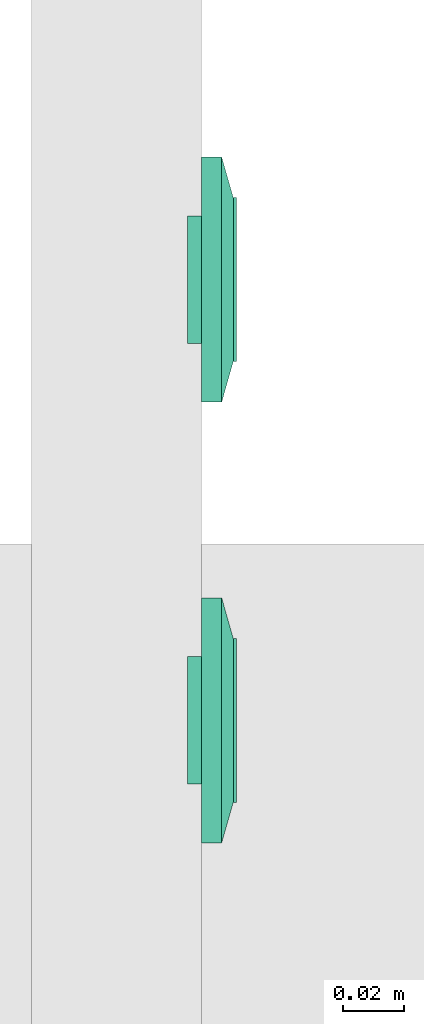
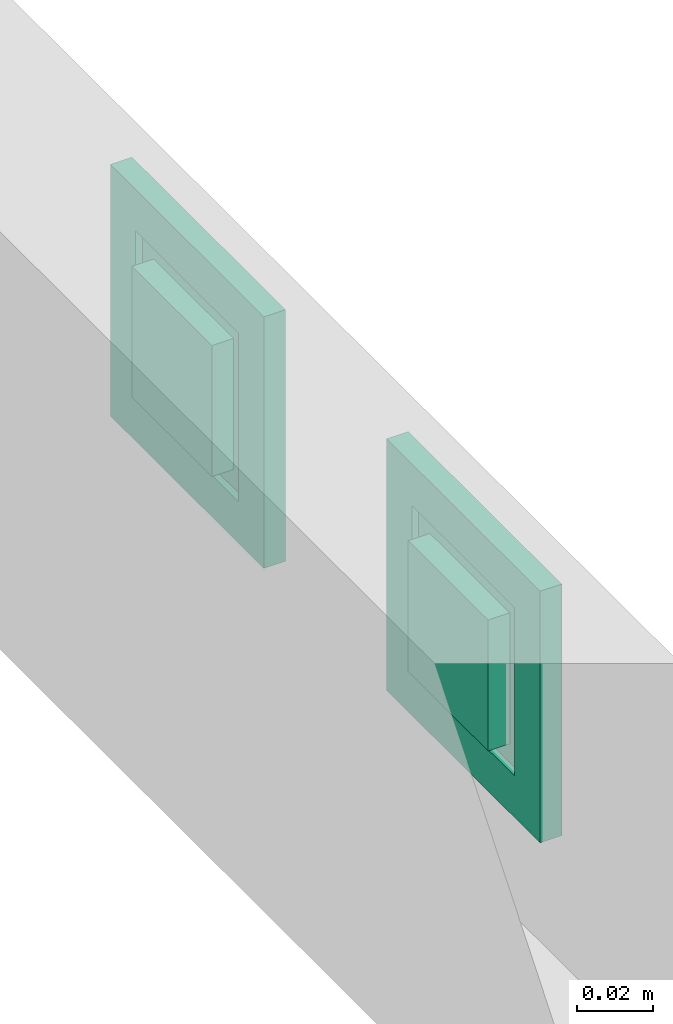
# One storey, part 49 of 166: 2 flow terminals.
"""IFC2X3 building model written with IfcOpenShell, lengths in metres."""

from ifc_helpers import new_model, entity, si_unit, converted_unit, derived_unit, direction, frame, origin, place, context, subcontext, project, spatial, faceted_brep, source, transform, mapped, type_object, type_shapes, element, save


model = new_model("IFC2X3")

# Units and contexts
model_context = context("Model", 3, precision=1e-05, world=origin(), true_north=direction((6.12303176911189e-17, 1.0)))
body_context = subcontext(model_context, "Body", "Model", "MODEL_VIEW")
ifc_project = project(units=[si_unit("LENGTHUNIT", "METRE"), si_unit("AREAUNIT", "SQUARE_METRE"), si_unit("VOLUMEUNIT", "CUBIC_METRE"), converted_unit("PLANEANGLEUNIT", "DEGREE", entity("IfcRatioMeasure", 0.0174532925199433), si_unit("PLANEANGLEUNIT", "RADIAN"), dimensions=[0, 0, 0, 0, 0, 0, 0]), si_unit("MASSUNIT", "GRAM", prefix="KILO"), derived_unit("MASSDENSITYUNIT", [(si_unit("MASSUNIT", "GRAM", prefix="KILO"), 1), (si_unit("LENGTHUNIT", "METRE"), -3)]), si_unit("TIMEUNIT", "SECOND"), si_unit("FREQUENCYUNIT", "HERTZ"), si_unit("THERMODYNAMICTEMPERATUREUNIT", "DEGREE_CELSIUS"), derived_unit("THERMALTRANSMITTANCEUNIT", [(si_unit("MASSUNIT", "GRAM", prefix="KILO"), 1), (si_unit("THERMODYNAMICTEMPERATUREUNIT", "KELVIN"), -1), (si_unit("TIMEUNIT", "SECOND"), -3)]), derived_unit("VOLUMETRICFLOWRATEUNIT", [(si_unit("LENGTHUNIT", "METRE"), 3), (si_unit("TIMEUNIT", "SECOND"), -1)]), si_unit("ELECTRICCURRENTUNIT", "AMPERE"), si_unit("ELECTRICVOLTAGEUNIT", "VOLT"), si_unit("POWERUNIT", "WATT"), si_unit("FORCEUNIT", "NEWTON"), si_unit("ILLUMINANCEUNIT", "LUX"), si_unit("LUMINOUSFLUXUNIT", "LUMEN"), si_unit("LUMINOUSINTENSITYUNIT", "CANDELA"), derived_unit("USERDEFINED", [(si_unit("MASSUNIT", "GRAM", prefix="KILO"), -1), (si_unit("LENGTHUNIT", "METRE"), -2), (si_unit("TIMEUNIT", "SECOND"), 3), (si_unit("LUMINOUSFLUXUNIT", "LUMEN"), 1)]), derived_unit("LINEARVELOCITYUNIT", [(si_unit("LENGTHUNIT", "METRE"), 1), (si_unit("TIMEUNIT", "SECOND"), -1)]), si_unit("PRESSUREUNIT", "PASCAL"), derived_unit("USERDEFINED", [(si_unit("LENGTHUNIT", "METRE"), -2), (si_unit("MASSUNIT", "GRAM", prefix="KILO"), 1), (si_unit("TIMEUNIT", "SECOND"), -2)])], contexts=[model_context])

# Site, building, storey
site_placement = place(None, origin())
site = spatial("IfcSite", under=ifc_project, at=site_placement, Name="Default", CompositionType="ELEMENT")
building_placement = place(site_placement, origin())
building = spatial("IfcBuilding", under=site, at=building_placement, CompositionType="ELEMENT")
storey_placement = place(building_placement, frame((0.0, 0.0, 4.27)))
storey = spatial("IfcBuildingStorey", under=building, at=storey_placement, Name="01", CompositionType="ELEMENT", Elevation=4.27)

# Flow terminals
electric_appliance_type = type_object("IfcElectricApplianceType", Name="RJ45 IP20", PredefinedType="NOTDEFINED")
shared_shape = source(origin(), body_context, "Body", "Brep", [
    faceted_brep([(0.00200000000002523, 0.0, 0.00799999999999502), (0.00400000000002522, 0.0, 0.00799999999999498), (0.00500000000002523, 0.00199999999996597, 0.00799999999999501), (0.0110000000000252, 0.00199999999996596, 0.00799999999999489), (0.0120000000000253, 0.0, 0.00799999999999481), (0.0140000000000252, 0.0, 0.00799999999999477), (0.0140000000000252, 0.00399999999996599, 0.00799999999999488), (0.00200000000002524, 0.00399999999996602, 0.00799999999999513), (0.00200000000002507, 0.0, 0.0), (0.00200000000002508, 0.00399999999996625, 0.0), (0.0140000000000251, 0.00399999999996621, 0.0), (0.0140000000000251, 0.0, 0.0), (0.0120000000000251, 0.0, 0.0), (0.0110000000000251, 0.00199999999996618, 0.0), (0.00500000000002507, 0.0019999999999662, 0.0), (0.00400000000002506, 0.0, 0.0)], [[[0, 1, 2, 3, 4, 5, 6, 7]], [[8, 9, 10, 11, 12, 13, 14, 15]], [[1, 0, 8, 15]], [[2, 1, 15, 14]], [[3, 2, 14, 13]], [[4, 3, 13, 12]], [[5, 4, 12, 11]], [[6, 5, 11, 10]], [[7, 6, 10, 9]], [[0, 7, 9, 8]]]),
    faceted_brep([(-0.0139999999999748, 0.0, 0.00799999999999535), (-0.0119999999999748, 0.0, 0.00799999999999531), (-0.0109999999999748, 0.00199999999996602, 0.00799999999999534), (-0.00499999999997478, 0.00199999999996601, 0.00799999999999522), (-0.0039999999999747, 0.0, 0.00799999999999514), (-0.00199999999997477, 0.0, 0.0079999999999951), (-0.00199999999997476, 0.00399999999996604, 0.00799999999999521), (-0.0139999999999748, 0.00399999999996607, 0.00799999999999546), (-0.0139999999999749, 0.0, 0.0), (-0.0139999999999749, 0.00399999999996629, 0.0), (-0.00199999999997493, 0.00399999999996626, 0.0), (-0.00199999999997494, 0.0, 0.0), (-0.00399999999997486, 0.0, 0.0), (-0.00499999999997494, 0.00199999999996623, 0.0), (-0.0109999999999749, 0.00199999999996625, 0.0), (-0.0119999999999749, 0.0, 0.0)], [[[0, 1, 2, 3, 4, 5, 6, 7]], [[8, 9, 10, 11, 12, 13, 14, 15]], [[1, 0, 8, 15]], [[2, 1, 15, 14]], [[3, 2, 14, 13]], [[4, 3, 13, 12]], [[5, 4, 12, 11]], [[6, 5, 11, 10]], [[7, 6, 10, 9]], [[0, 7, 9, 8]]]),
    faceted_brep([(0.0140000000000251, 0.00399999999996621, 0.0), (0.00200000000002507, 0.00399999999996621, 0.0), (0.00200000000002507, -0.00350000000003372, 0.0), (0.0140000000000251, -0.00350000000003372, 0.0), (0.0140000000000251, 0.00399999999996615, 0.00199999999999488), (0.00200000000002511, 0.00399999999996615, 0.00199999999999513), (0.00200000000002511, -0.00393859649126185, 0.00199999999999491), (0.0140000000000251, -0.00393859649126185, 0.00199999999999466), (0.0210000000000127, 0.0209999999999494, 0.00199999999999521), (-0.0209999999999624, 0.0209999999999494, 0.00199999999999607), (-0.0209999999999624, -0.0210000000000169, 0.00199999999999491), (0.0210000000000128, -0.0210000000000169, 0.00199999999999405), (-0.0139999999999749, 0.0039999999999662, 0.00199999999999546), (-0.0019999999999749, 0.0039999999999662, 0.00199999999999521), (-0.00199999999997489, -0.0039385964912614, 0.00199999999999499), (-0.0139999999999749, -0.00393859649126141, 0.00199999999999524), (0.0210000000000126, 0.0209999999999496, -0.00460000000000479), (0.0210000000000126, -0.0210000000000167, -0.00460000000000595), (-0.0209999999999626, -0.0210000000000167, -0.00460000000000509), (-0.0209999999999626, 0.0209999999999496, -0.00460000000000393), (-0.00199999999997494, 0.00399999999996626, 0.0), (-0.0139999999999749, 0.00399999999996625, 0.0), (-0.0139999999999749, -0.00350000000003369, 0.0), (-0.00199999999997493, -0.00350000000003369, 0.0)], [[[0, 1, 2, 3]], [[1, 0, 4, 5]], [[2, 1, 5, 6]], [[3, 2, 6, 7]], [[0, 3, 7, 4]], [[5, 4, 7, 6], [8, 9, 10, 11], [12, 13, 14, 15]], [[16, 17, 18, 19]], [[9, 8, 16, 19]], [[10, 9, 19, 18]], [[11, 10, 18, 17]], [[8, 11, 17, 16]], [[20, 21, 22, 23]], [[21, 20, 13, 12]], [[22, 21, 12, 15]], [[23, 22, 15, 14]], [[20, 23, 14, 13]]], outer=[[True], [True], [True], [True], [True], [False, True, False], [True], [True], [True], [True], [True], [True], [True], [True], [True], [True]]),
    faceted_brep([(0.0270000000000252, 0.026999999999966, 0.0113999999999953), (-0.0269999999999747, 0.026999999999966, 0.0113999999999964), (-0.0269999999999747, -0.0270000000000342, 0.0113999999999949), (0.0270000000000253, -0.0270000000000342, 0.0113999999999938), (0.0020000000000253, 0.00399999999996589, 0.0113999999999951), (0.0140000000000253, 0.00399999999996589, 0.0113999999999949), (0.0140000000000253, -0.00600000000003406, 0.0113999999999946), (0.0020000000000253, -0.00600000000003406, 0.0113999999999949), (-0.0139999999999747, 0.00399999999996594, 0.0113999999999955), (-0.00199999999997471, 0.00399999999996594, 0.0113999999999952), (-0.00199999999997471, -0.0060000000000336, 0.0113999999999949), (-0.0139999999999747, -0.00600000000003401, 0.0113999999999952), (0.0270000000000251, 0.0269999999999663, 0.00199999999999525), (0.0270000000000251, -0.0270000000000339, 0.00199999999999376), (-0.0269999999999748, -0.0270000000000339, 0.00199999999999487), (-0.0269999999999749, 0.0269999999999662, 0.00199999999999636), (0.0140000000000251, 0.00399999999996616, 0.00199999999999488), (0.00200000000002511, 0.00399999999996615, 0.00199999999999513), (0.00200000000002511, -0.00393859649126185, 0.00199999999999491), (0.0140000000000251, -0.00393859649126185, 0.00199999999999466), (-0.00199999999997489, 0.0039999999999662, 0.00199999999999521), (-0.0139999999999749, 0.0039999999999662, 0.00199999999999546), (-0.0139999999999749, -0.0039385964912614, 0.00199999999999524), (-0.00199999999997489, -0.0039385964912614, 0.00199999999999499)], [[[0, 1, 2, 3], [4, 5, 6, 7], [8, 9, 10, 11]], [[12, 13, 14, 15], [16, 17, 18, 19], [20, 21, 22, 23]], [[1, 0, 12, 15]], [[2, 1, 15, 14]], [[3, 2, 14, 13]], [[0, 3, 13, 12]], [[4, 17, 16, 5]], [[17, 4, 7, 18]], [[18, 7, 6, 19]], [[5, 16, 19, 6]], [[8, 21, 20, 9]], [[21, 8, 11, 22]], [[22, 11, 10, 23]], [[9, 20, 23, 10]]]),
    faceted_brep([(0.027000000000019, 0.0269999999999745, 0.00659999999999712), (-0.0269999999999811, 0.0269999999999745, 0.00659999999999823), (-0.026999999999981, -0.0270000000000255, 0.00659999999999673), (0.027000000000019, -0.0270000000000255, 0.00659999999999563), (0.040350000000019, 0.0403499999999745, 0.00659999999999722), (0.040350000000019, -0.0403500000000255, 0.00659999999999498), (-0.0403499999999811, -0.0403500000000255, 0.00659999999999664), (-0.0403499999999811, 0.0403499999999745, 0.00659999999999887), (-0.026999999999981, 0.0269999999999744, 0.0103999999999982), (0.027000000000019, 0.0269999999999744, 0.0103999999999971), (-0.026999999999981, -0.0270000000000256, 0.0103999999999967), (0.027000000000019, -0.0270000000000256, 0.0103999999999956)], [[[0, 1, 2, 3], [4, 5, 6, 7]], [[4, 7, 8, 9]], [[7, 6, 10, 8]], [[6, 5, 11, 10]], [[5, 4, 9, 11]], [[0, 9, 8, 1]], [[1, 8, 10, 2]], [[2, 10, 11, 3]], [[9, 0, 3, 11]]], outer=[[False, True], [True], [True], [True], [True], [True], [True], [True], [True]]),
    faceted_brep([(0.040350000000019, 0.0403499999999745, 0.00659999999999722), (-0.0403499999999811, 0.0403499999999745, 0.00659999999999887), (-0.0403499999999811, -0.0403500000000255, 0.00659999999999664), (0.040350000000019, -0.0403500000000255, 0.00659999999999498), (-0.0269999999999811, 0.0269999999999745, 0.00659999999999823), (0.0270000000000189, 0.0269999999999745, 0.00659999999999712), (0.0270000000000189, -0.0270000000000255, 0.00659999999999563), (-0.0269999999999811, -0.0270000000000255, 0.00659999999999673), (0.0403500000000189, 0.0403499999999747, 0.0), (0.0403500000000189, -0.0403500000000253, 0.0), (-0.0403499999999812, -0.0403500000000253, 0.0), (-0.0403499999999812, 0.0403499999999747, 0.0), (0.0270000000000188, 0.0269999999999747, 0.0), (-0.0269999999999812, 0.0269999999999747, 0.0), (-0.0269999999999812, -0.0270000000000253, 0.0), (0.0270000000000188, -0.0270000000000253, 0.0)], [[[0, 1, 2, 3], [4, 5, 6, 7]], [[8, 9, 10, 11], [12, 13, 14, 15]], [[1, 0, 8, 11]], [[2, 1, 11, 10]], [[3, 2, 10, 9]], [[0, 3, 9, 8]], [[12, 5, 4, 13]], [[13, 4, 7, 14]], [[14, 7, 6, 15]], [[5, 12, 15, 6]]]),
])
type_shapes(electric_appliance_type, [shared_shape])
for number, where, z_axis, x_axis in (
    (1, (33.6087436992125, -189.159250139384, 4.70800000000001), (1.0, 0.0, 0.0), (0.0, 1.0, 0.0)),
    (2, (33.6087436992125, -189.304409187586, 4.70800000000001), (1.0, 0.0, 0.0), (0.0, 1.0, 0.0)),
):
    element("IfcFlowTerminal", number, at=place(building_placement, frame(where, z_axis=z_axis, x_axis=x_axis)), inside=storey, type_object=electric_appliance_type, Name="INT_Prise RJ45:RJ45 IP20", ObjectType="INT_Prise RJ45:RJ45 IP20", context=body_context, shape_type="MappedRepresentation", body=[
        mapped(shared_shape, transform((0.0, 0.0, 0.0), scale=1.0)),
    ])

save(model, "model.ifc")
